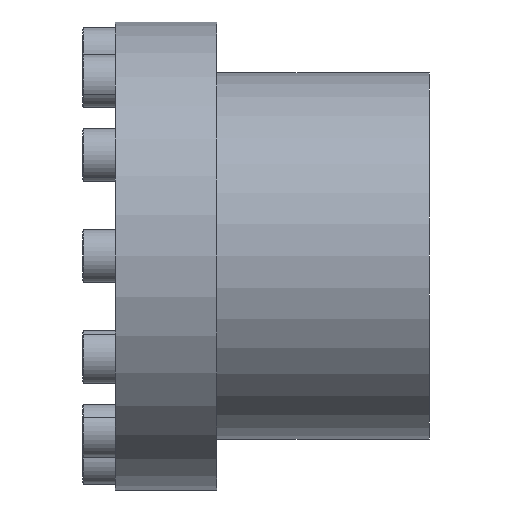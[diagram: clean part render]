
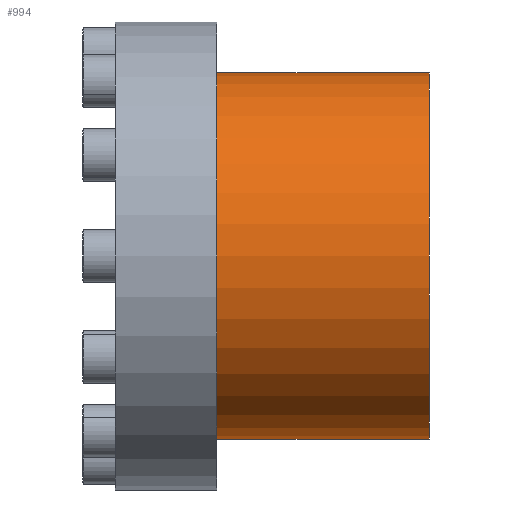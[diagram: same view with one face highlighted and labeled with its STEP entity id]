
A CAD part, front view. The second image highlights one B-rep face of the part: STEP entity #994.
In plain terms, the highlighted cylindrical face has radius 56 mm (diameter 112 mm), a partial arc.
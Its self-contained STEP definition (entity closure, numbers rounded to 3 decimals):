
#735 = VERTEX_POINT ( 'NONE', #3830 ) ;
#737 = EDGE_CURVE ( 'NONE', #793, #735, #3946, .T. ) ;
#793 = VERTEX_POINT ( 'NONE', #4119 ) ;
#794 = VERTEX_POINT ( 'NONE', #4118 ) ;
#796 = EDGE_CURVE ( 'NONE', #794, #797, #4117, .T. ) ;
#797 = VERTEX_POINT ( 'NONE', #4113 ) ;
#993 = EDGE_CURVE ( 'NONE', #797, #735, #4496, .T. ) ;
#994 = ADVANCED_FACE ( 'NONE', ( #4530 ), #4529, .T. ) ;
#995 = EDGE_LOOP ( 'NONE', ( #996, #997, #999, #1000 ) ) ;
#996 = ORIENTED_EDGE ( 'NONE', *, *, #796, .F. ) ;
#997 = ORIENTED_EDGE ( 'NONE', *, *, #998, .T. ) ;
#998 = EDGE_CURVE ( 'NONE', #794, #793, #4528, .T. ) ;
#999 = ORIENTED_EDGE ( 'NONE', *, *, #737, .T. ) ;
#1000 = ORIENTED_EDGE ( 'NONE', *, *, #993, .F. ) ;
#3830 = CARTESIAN_POINT ( 'NONE',  ( 31., 0., 56. ) ) ;
#3943 = DIRECTION ( 'NONE',  ( -1., 0., 0. ) ) ;
#3944 = VECTOR ( 'NONE', #3943, 1000. ) ;
#3945 = CARTESIAN_POINT ( 'NONE',  ( 0., 0., 56. ) ) ;
#3946 = LINE ( 'NONE', #3945, #3944 ) ;
#4113 = CARTESIAN_POINT ( 'NONE',  ( 31., 0., -56. ) ) ;
#4114 = DIRECTION ( 'NONE',  ( -1., 0., 0. ) ) ;
#4115 = VECTOR ( 'NONE', #4114, 1000. ) ;
#4116 = CARTESIAN_POINT ( 'NONE',  ( 0., 0., -56. ) ) ;
#4117 = LINE ( 'NONE', #4116, #4115 ) ;
#4118 = CARTESIAN_POINT ( 'NONE',  ( 96., 0., -56. ) ) ;
#4119 = CARTESIAN_POINT ( 'NONE',  ( 96., 0., 56. ) ) ;
#4488 = DIRECTION ( 'NONE',  ( 0., 0., 1. ) ) ;
#4489 = DIRECTION ( 'NONE',  ( -1., 0., 0. ) ) ;
#4490 = CARTESIAN_POINT ( 'NONE',  ( 96., 0., 0. ) ) ;
#4491 = AXIS2_PLACEMENT_3D ( 'NONE', #4490, #4489, #4488 ) ;
#4492 = DIRECTION ( 'NONE',  ( 0., 0., 1. ) ) ;
#4493 = DIRECTION ( 'NONE',  ( -1., 0., 0. ) ) ;
#4494 = CARTESIAN_POINT ( 'NONE',  ( 31., 0., 0. ) ) ;
#4495 = AXIS2_PLACEMENT_3D ( 'NONE', #4494, #4493, #4492 ) ;
#4496 = CIRCLE ( 'NONE', #4495, 56. ) ;
#4524 = DIRECTION ( 'NONE',  ( 0., 0., 1. ) ) ;
#4525 = DIRECTION ( 'NONE',  ( -1., 0., 0. ) ) ;
#4526 = CARTESIAN_POINT ( 'NONE',  ( 0., 0., 0. ) ) ;
#4527 = AXIS2_PLACEMENT_3D ( 'NONE', #4526, #4525, #4524 ) ;
#4528 = CIRCLE ( 'NONE', #4491, 56. ) ;
#4529 = CYLINDRICAL_SURFACE ( 'NONE', #4527, 56. ) ;
#4530 = FACE_OUTER_BOUND ( 'NONE', #995, .T. ) ;
